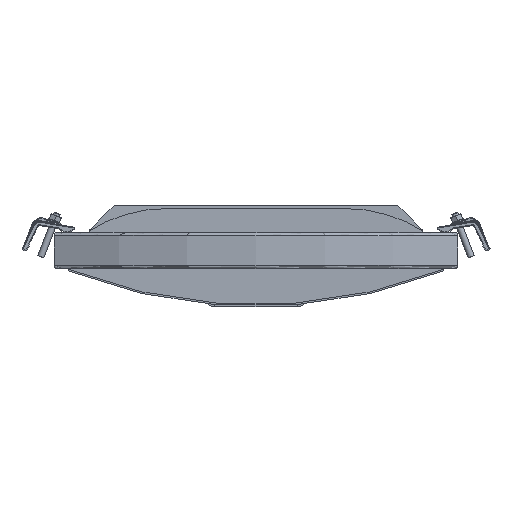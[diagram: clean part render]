
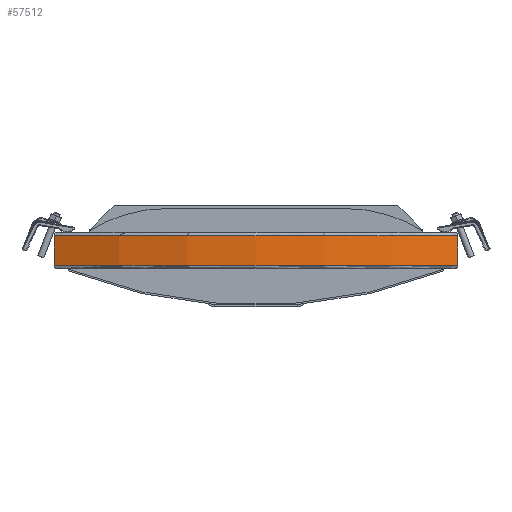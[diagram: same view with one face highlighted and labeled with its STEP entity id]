
A CAD part, front view. The second image highlights one B-rep face of the part: STEP entity #57512.
In plain terms, the highlighted cylindrical face has radius 552 mm (diameter 1104 mm), a partial arc.
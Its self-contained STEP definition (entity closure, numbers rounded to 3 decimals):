
#244 = DIRECTION ( 'NONE',  ( -1., 0., 0. ) ) ;
#1238 = CARTESIAN_POINT ( 'NONE',  ( 245.333, 45.515, 40. ) ) ;
#5473 = VECTOR ( 'NONE', #36228, 1000. ) ;
#6338 = CARTESIAN_POINT ( 'NONE',  ( 0., 540., 0. ) ) ;
#10460 = CYLINDRICAL_SURFACE ( 'NONE', #39365, 552. ) ;
#12719 = ORIENTED_EDGE ( 'NONE', *, *, #21096, .T. ) ;
#12792 = CARTESIAN_POINT ( 'NONE',  ( -245.333, 45.515, 4. ) ) ;
#15699 = DIRECTION ( 'NONE',  ( 0., 0., -1. ) ) ;
#18086 = VERTEX_POINT ( 'NONE', #26916 ) ;
#18329 = CARTESIAN_POINT ( 'NONE',  ( -245.333, 45.515, 40. ) ) ;
#19009 = ORIENTED_EDGE ( 'NONE', *, *, #32064, .F. ) ;
#21096 = EDGE_CURVE ( 'NONE', #18086, #26612, #28940, .T. ) ;
#23486 = DIRECTION ( 'NONE',  ( 0., 0., -1. ) ) ;
#24144 = AXIS2_PLACEMENT_3D ( 'NONE', #59494, #50736, #54516 ) ;
#26612 = VERTEX_POINT ( 'NONE', #18329 ) ;
#26916 = CARTESIAN_POINT ( 'NONE',  ( 245.333, 45.515, 40. ) ) ;
#28222 = CARTESIAN_POINT ( 'NONE',  ( 0., 540., 40. ) ) ;
#28744 = EDGE_LOOP ( 'NONE', ( #58240, #12719, #41323, #19009 ) ) ;
#28940 = CIRCLE ( 'NONE', #51045, 552. ) ;
#30248 = FACE_OUTER_BOUND ( 'NONE', #28744, .T. ) ;
#32064 = EDGE_CURVE ( 'NONE', #55066, #42286, #51293, .T. ) ;
#32744 = CARTESIAN_POINT ( 'NONE',  ( -245.333, 45.515, 40. ) ) ;
#33292 = VECTOR ( 'NONE', #15699, 1000. ) ;
#36228 = DIRECTION ( 'NONE',  ( 0., 0., -1. ) ) ;
#38691 = LINE ( 'NONE', #1238, #33292 ) ;
#39365 = AXIS2_PLACEMENT_3D ( 'NONE', #6338, #58842, #54477 ) ;
#41323 = ORIENTED_EDGE ( 'NONE', *, *, #59015, .T. ) ;
#42286 = VERTEX_POINT ( 'NONE', #12792 ) ;
#50736 = DIRECTION ( 'NONE',  ( 0., 0., -1. ) ) ;
#50894 = CARTESIAN_POINT ( 'NONE',  ( 245.333, 45.515, 4. ) ) ;
#51045 = AXIS2_PLACEMENT_3D ( 'NONE', #28222, #23486, #244 ) ;
#51293 = CIRCLE ( 'NONE', #24144, 552. ) ;
#51945 = LINE ( 'NONE', #32744, #5473 ) ;
#54477 = DIRECTION ( 'NONE',  ( -1., 0., 0. ) ) ;
#54516 = DIRECTION ( 'NONE',  ( -1., 0., 0. ) ) ;
#55066 = VERTEX_POINT ( 'NONE', #50894 ) ;
#56625 = EDGE_CURVE ( 'NONE', #18086, #55066, #38691, .T. ) ;
#57512 = ADVANCED_FACE ( 'NONE', ( #30248 ), #10460, .T. ) ;
#58240 = ORIENTED_EDGE ( 'NONE', *, *, #56625, .F. ) ;
#58842 = DIRECTION ( 'NONE',  ( 0., 0., -1. ) ) ;
#59015 = EDGE_CURVE ( 'NONE', #26612, #42286, #51945, .T. ) ;
#59494 = CARTESIAN_POINT ( 'NONE',  ( 0., 540., 4. ) ) ;
